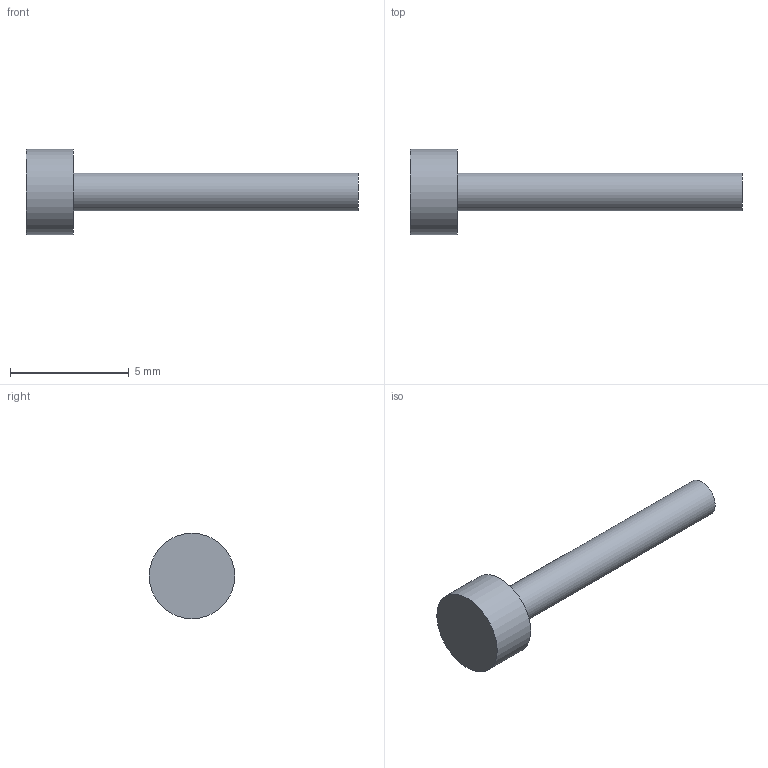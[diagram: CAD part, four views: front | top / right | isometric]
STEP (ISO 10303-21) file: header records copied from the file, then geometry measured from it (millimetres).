
FILE_DESCRIPTION(('Open CASCADE Model'),'2;1');
FILE_NAME('Open CASCADE Shape Model','2026-09-24T19:52:59',('Author'),( 'Open CASCADE'),'Open CASCADE STEP processor 7.8','Open CASCADE 7.8' ,'Unknown');
FILE_SCHEMA(('AUTOMOTIVE_DESIGN { 1 0 10303 214 1 1 1 1 }'));
Length unit declared in the file: millimetre
Products named in the file (1): Open CASCADE STEP translator 7.8 25
Bounding box: 14 x 3.6 x 3.6 mm (x, y, z)
Volume: 44.5 mm3; surface area: 103.3 mm2
Topology: 1 solids, 1 shells, 5 faces, 6 edges, 4 vertices
Faces by surface type: plane 3, cylinder 2
Full cylindrical faces by diameter (mm): 1.6 x1, 3.6 x1
Entity records: 192 total; most frequent: DIRECTION 34, CARTESIAN_POINT 28, ORIENTED_EDGE 12, PCURVE 12, DEFINITIONAL_REPRESENTATION 12, AXIS2_PLACEMENT_3D 10, LINE 10, VECTOR 10
